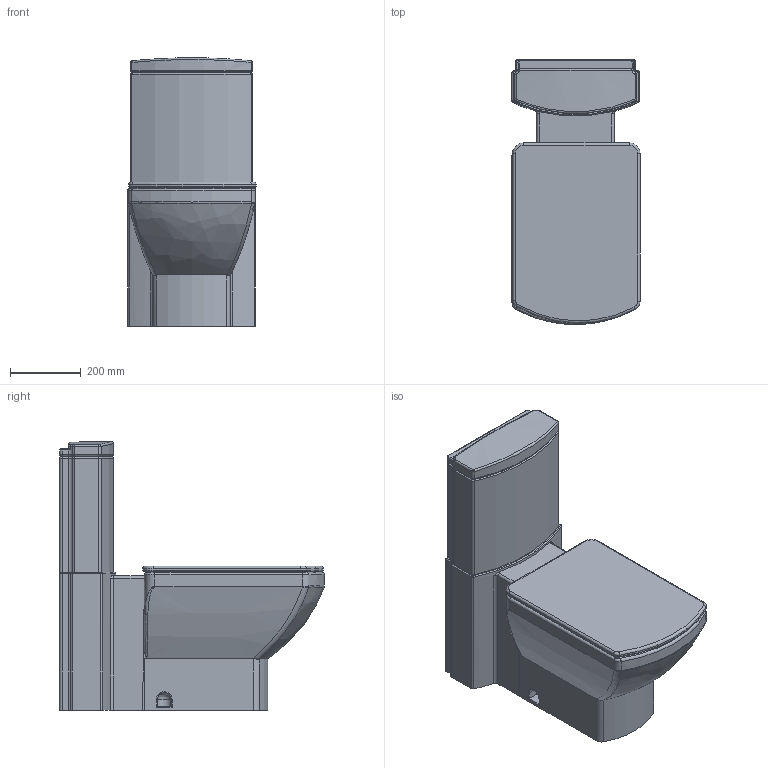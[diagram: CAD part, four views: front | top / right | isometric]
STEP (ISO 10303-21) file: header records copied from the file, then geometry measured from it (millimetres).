
FILE_DESCRIPTION((''),'2;1');
FILE_NAME('C:\Dokumente und Einstellungen\Huebner\Eigene Dateien\PRIV\3D\US_Toilets\STEP\010101.stp','2007-08-16T17:54:59',('Huebner'),(''),'Autodesk Inventor 11','Autodesk Inventor 11','');
FILE_SCHEMA(('AUTOMOTIVE_DESIGN { 1 0 10303 214 1 1 1 1 }'));
Length unit declared in the file: millimetre
Products named in the file (4): 010101; 010101_Deckel; 010101_Spülkasten
Assembly tree (3 placements, depth 2):
  010101
    010101
    010101_Deckel
    010101_Spülkasten
Bounding box: 362.41 x 750 x 759.88 mm (x, y, z)
Volume: 77977055.9 mm3; surface area: 2235188.4 mm2
Topology: 5 solids, 7 shells, 339 faces, 786 edges, 473 vertices
Faces by surface type: cylinder 124, plane 82, bspline 76, torus 54, sphere 3
Full cylindrical faces by diameter (mm): 15 x4, 20 x2, 26 x4, 75 x2, 93 x2, 103 x1
Entity records: 19133 total; most frequent: CARTESIAN_POINT 11675, DIRECTION 1529, ORIENTED_EDGE 1512, EDGE_CURVE 756, AXIS2_PLACEMENT_3D 627, VERTEX_POINT 470, EDGE_LOOP 382, FACE_OUTER_BOUND 339
